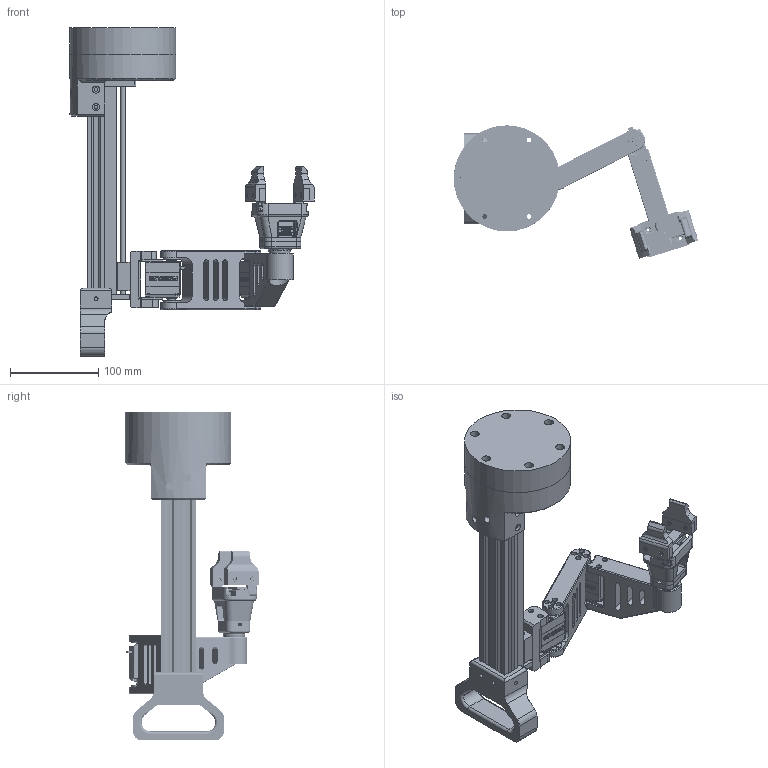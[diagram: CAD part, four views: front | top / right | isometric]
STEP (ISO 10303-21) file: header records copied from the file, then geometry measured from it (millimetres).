
FILE_DESCRIPTION(/* description */ (''),/* implementation_level */ '2;1');
FILE_NAME(/* name */ 'Assieme_scara_04.stp',/* time_stamp */ '2025-11-20T18:16:21+01:00',/* author */ ('Ryzen5700u'),/* organization */ (''),/* preprocessor_version */ 'ST-DEVELOPER v20',/* originating_system */ 'Autodesk Inventor 2025',/* authorisation */ '');
FILE_SCHEMA (('AUTOMOTIVE_DESIGN { 1 0 10303 214 3 1 1 }'));
Products named in the file (56): Assieme_scara_02; base1; blocco_motore1; BS 4168 - M2,5 x 12; AS 1420 - 1973 - M4 x 30; tslot 2040; Assieme_profilato; profilato; profilato_cuscinetto; profilato_motore; Nema11; 00144585; 00144585_01; 00144585_02; 00144585_03; 00144585_04; 00144585_05; 00144585_06; 00144585_07; 00144585_08; 00144585_09; 00144585_10; 00144585_11; 00144585_12; 00144585_13; 00144585_14; Actuator_MGN9; AS 1420 - 1973 - M3 x 6; Actuator_MGN9C; Carriage; AS 1420 - 1973 - M3 x 12; maniglia; disco_120; gripper; gripper_rail_base; gripper_finger; gripper_base_plate; MG90S_assieme_disco_ldb2; MG90_ldb; scritta_MG90s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
Assembly tree (79 placements, depth 4):
  Assieme_scara_02
    base1
    blocco_motore1
    BS 4168 - M2,5 x 12  x4
    AS 1420 - 1973 - M4 x 30  x4
    tslot 2040
    Assieme_profilato
      profilato
      profilato_cuscinetto
      profilato_motore
      Nema11
      00144585
        00144585_01
        00144585_02
        00144585_03
        00144585_04
        00144585_05
        00144585_06
        00144585_07
        00144585_08
        00144585_09
        00144585_10
        00144585_11
        00144585_12
        00144585_13
        00144585_14
      Actuator_MGN9
      AS 1420 - 1973 - M3 x 6  x4
      Actuator_MGN9C
      Carriage
      AS 1420 - 1973 - M3 x 12  x4
    maniglia
    disco_120
    gripper
      gripper_rail_base
      gripper_finger  x2
      gripper_base_plate
      MG90S_assieme_disco_ldb2
        MG90_ldb
        scritta_MG90s  x2
      MG90S 9g Micro Servo Medium Horn 12 holes
      blocco_giunto_polso
      gripper_spur_gear v2
      dito1  x2
      AS 1420 - 1973 - M3 x 10  x5
      BS 4168 - M2,5 x 10
      AS 1427 - M2 x 12
    rds3120-3d
      GE_57
      DUOPAN-SG
      DUOPAN-DG
      ZJ-DUAN
      corpo_3ds3120
    rds3120-3d_1
      GE_57
      DUOPAN-SG
      DUOPAN-DG
      ZJ-DUAN
      corpo_3ds3120
    braccio_02
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Bounding box: 276.61 x 150.65 x 372 mm (x, y, z)
Volume: 1310112.1 mm3; surface area: 401311.8 mm2
Topology: 73 solids, 77 shells, 3499 faces, 9665 edges, 6553 vertices
Faces by surface type: plane 1951, cylinder 912, bspline 402, cone 106, torus 92, sphere 36
Full cylindrical faces by diameter (mm): 1.03 x6, 1.167 x3, 1.2 x2, 1.5 x2, 1.6 x2, 1.755 x1, 2 x3, 2.05 x4, 2.2 x33, 2.3 x4, 2.4 x8, 2.459 x6, 2.47 x1, 2.5 x77, 2.8 x4, 2.9 x4, 3 x23, 3.2 x48, 3.242 x4, 3.4 x32, 3.5 x5, 4 x5, 4.3 x6, 4.5 x9, 4.69 x1, 4.8 x1, 5 x5, 5.3 x7, 5.5 x48, 5.8 x4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
Entity records: 144989 total; most frequent: CARTESIAN_POINT 75920, ORIENTED_EDGE 14144, DIRECTION 12938, EDGE_CURVE 7072, VERTEX_POINT 4782, LINE 4396, VECTOR 4396, AXIS2_PLACEMENT_3D 4271
